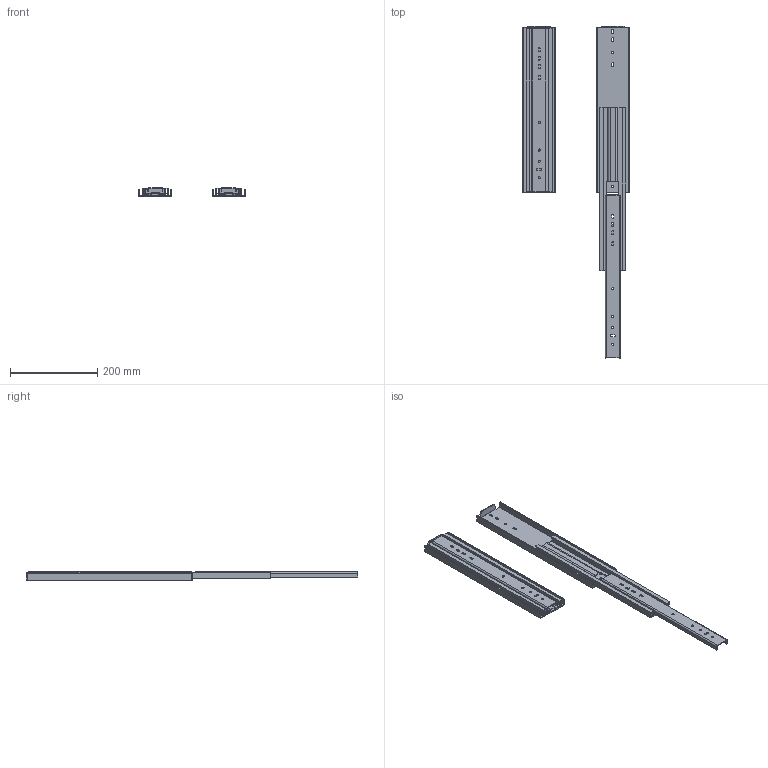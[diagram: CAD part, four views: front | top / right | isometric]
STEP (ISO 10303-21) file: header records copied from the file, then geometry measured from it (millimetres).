
FILE_DESCRIPTION((''),'2;1');
FILE_NAME('ASSEM1_1_2_3_4_ASM','2026-04-07T16:26:32',('T260078'),(''),'CREO PARAMETRIC BY PTC INC, 2025123','CREO PARAMETRIC BY PTC INC, 2025123','');
FILE_SCHEMA(('CONFIG_CONTROL_DESIGN','SHAPE_APPEARANCE_LAYERS_GROUPS'));
Length unit declared in the file: millimetre
Products named in the file (6): 76J01-15_X2_540B_X0_-M; 76J01-15_X2_540B_X0_-I; 76J01-15_X2_540B_X0_-O; 76J01-15_X2_540_X0__ASM; 76J01-15_X2_540B_X0_-_X2_5C5595_ASM; ASSEM1_1_2_3_4_ASM
Assembly tree (8 placements, depth 3):
  ASSEM1_1_2_3_4_ASM
    76J01-15_X2_540_X0__ASM
      76J01-15_X2_540B_X0_-M
      76J01-15_X2_540B_X0_-I
      76J01-15_X2_540B_X0_-O
    76J01-15_X2_540B_X0_-_X2_5C5595_ASM
      76J01-15_X2_540B_X0_-M
      76J01-15_X2_540B_X0_-I
      76J01-15_X2_540B_X0_-O
Bounding box: 245.44 x 762 x 19.3 mm (x, y, z)
Volume: 463986 mm3; surface area: 416711.2 mm2
Topology: 6 solids, 6 shells, 324 faces, 1008 edges, 688 vertices
Faces by surface type: plane 176, cylinder 148
Entity records: 6962 total; most frequent: CARTESIAN_POINT 1057, DIRECTION 1027, ORIENTED_EDGE 1008, EDGE_CURVE 504, AXIS2_PLACEMENT_3D 348, VERTEX_POINT 344, VECTOR 331, LINE 331
